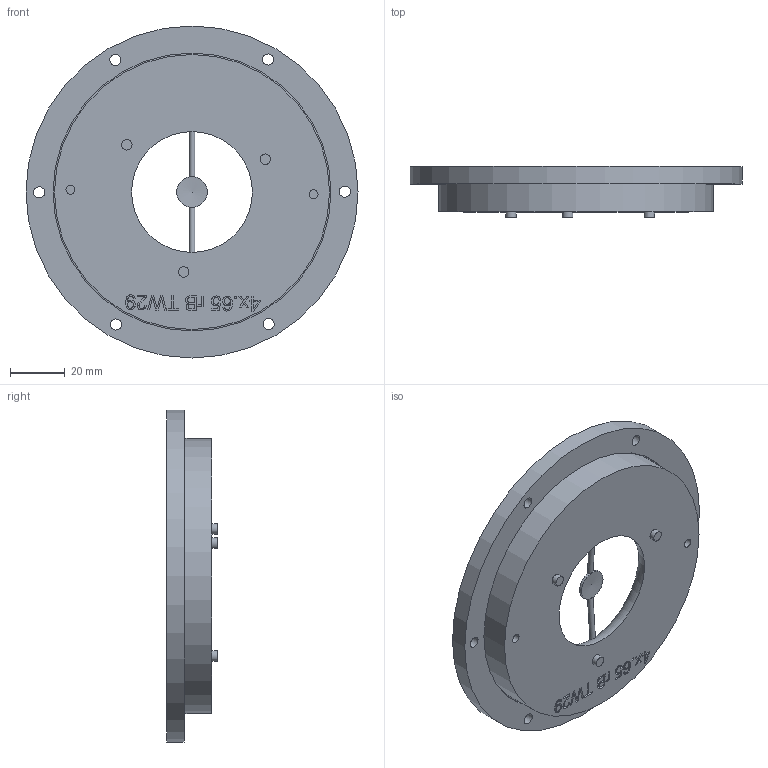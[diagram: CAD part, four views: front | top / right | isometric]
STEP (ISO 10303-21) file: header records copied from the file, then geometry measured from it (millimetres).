
FILE_DESCRIPTION(/* description */ (''),/* implementation_level */ '2;1');
FILE_NAME(/* name */ '4x.65 rB ps.step',/* time_stamp */ '2023-05-21T16:28:07-06:00',/* author */ (''),/* organization */ (''),/* preprocessor_version */ 'ST-DEVELOPER v19.2',/* originating_system */ 'Autodesk Translation Framework v12.4.0.73',/* authorisation */ '');
FILE_SCHEMA (('AUTOMOTIVE_DESIGN { 1 0 10303 214 3 1 1 }'));
Length unit declared in the file: inch
Products named in the file (3): 4x.65 rB OS tw29; modified 6 v2; Component2
Assembly tree (2 placements, depth 3):
  4x.65 rB OS tw29
    modified 6 v2
      Component2
Bounding box: 121.41 x 18.54 x 121.41 mm (x, y, z)
Volume: 102370 mm3; surface area: 29037.7 mm2
Topology: 2 solids, 2 shells, 270 faces, 717 edges, 478 vertices
Faces by surface type: bspline 128, plane 110, cylinder 24, torus 5, cone 3
Full cylindrical faces by diameter (mm): 2.032 x2, 3.302 x2, 3.81 x3, 4.064 x6, 8.382 x6, 11.176 x1, 100.584 x1, 101.6 x1, 121.412 x1
Entity records: 9773 total; most frequent: CARTESIAN_POINT 3815, ORIENTED_EDGE 1432, DIRECTION 792, EDGE_CURVE 716, VERTEX_POINT 478, LINE 392, VECTOR 392, EDGE_LOOP 312
